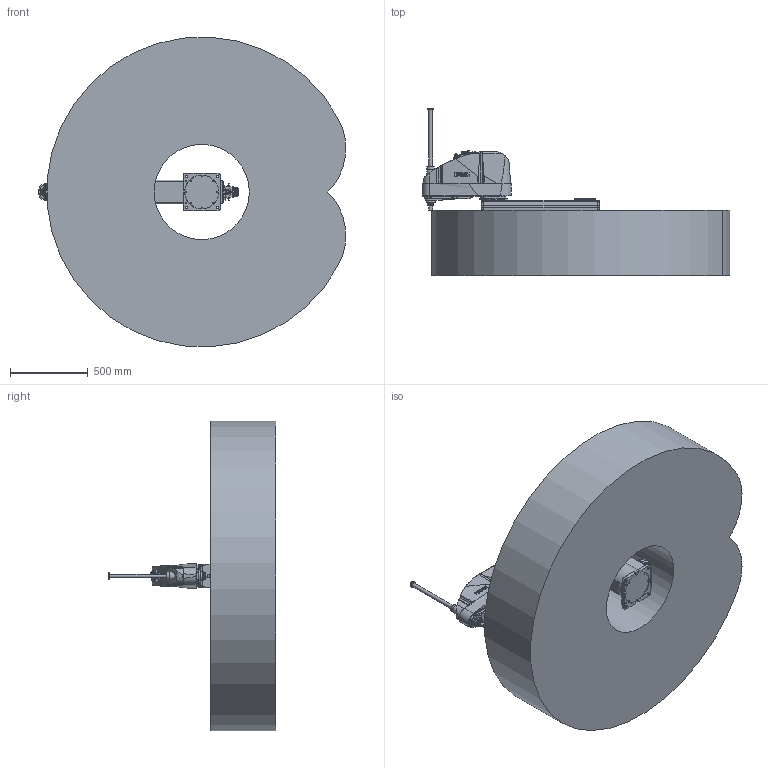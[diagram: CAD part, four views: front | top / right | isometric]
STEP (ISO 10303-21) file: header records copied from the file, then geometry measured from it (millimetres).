
FILE_DESCRIPTION( ( 'STEP AP214' ), '1' );
FILE_NAME( 'C:/Users/9607552/Desktop/GX20-BA04S_langle.stp', '2023-08-01T09:41:19', ( '' ), ( '' ), ' ', 'PARTsolutions', ' ' );
FILE_SCHEMA( ( 'AUTOMOTIVE_DESIGN { 1 0 10303 214 1 1 1 1 }' ) );
Length unit declared in the file: millimetre
Products named in the file (7): GX20-BA04SA-W; _Base s; _Angle-B; _J1 Arm GX10-600; _J2 Arm GX10-s; _J3 Arm GX10-s (4); _GX10_20B-24_4
Assembly tree (6 placements, depth 2):
  GX20-BA04SA-W
    _Base s
    _Angle-B
    _J1 Arm GX10-600
    _J2 Arm GX10-s
    _J3 Arm GX10-s (4)
    _GX10_20B-24_4
Bounding box: 1985.18 x 1080 x 1997.01 mm (x, y, z)
Volume: 1214220443.6 mm3; surface area: 10533054.6 mm2
Topology: 6 solids, 6 shells, 2387 faces, 5833 edges, 3810 vertices
Faces by surface type: plane 1254, cylinder 742, cone 296, torus 62, bspline 32, sphere 1
Full cylindrical faces by diameter (mm): 1 x24, 1.18 x55, 3 x32, 3.242 x10, 3.3 x4, 4.2 x4, 4.8 x4, 5.1 x4, 5.25 x2, 5.34 x4, 5.4 x5, 5.5 x12, 6 x1, 6.2 x4, 6.647 x2, 7 x31, 8 x9, 8.5 x2, 9 x4, 10 x32, 11 x14, 12 x6, 12.25 x1, 13 x2, 14 x8, 14.25 x1, 16 x6, 18 x1, 20.4 x1, 21.7 x2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
Entity records: 90563 total; most frequent: CARTESIAN_POINT 17365, DIRECTION 11161, ORIENTED_EDGE 10370, EDGE_CURVE 5185, AXIS2_PLACEMENT_3D 4264, VERTEX_POINT 3729, EDGE_LOOP 3332, FACE_OUTER_BOUND 2751
